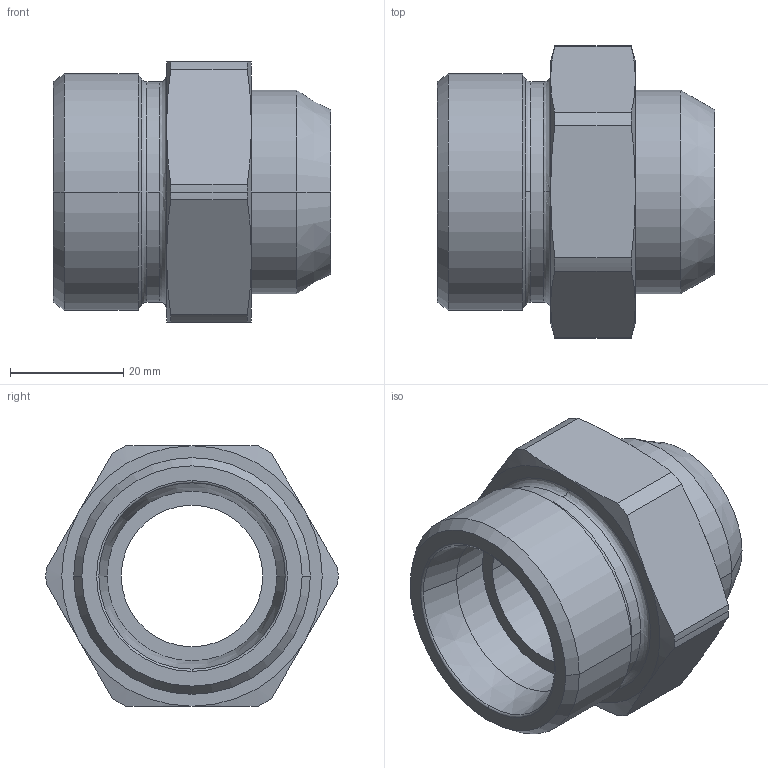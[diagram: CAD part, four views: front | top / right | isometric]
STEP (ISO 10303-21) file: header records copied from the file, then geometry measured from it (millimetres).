
FILE_DESCRIPTION((''),'2;1');
FILE_NAME('105522.stp','2007-10-31T14:02:13',(''),(''),'AutoCAD STEP 2000i','AutoCAD 2000i',', , ');
FILE_SCHEMA(('CONFIG_CONTROL_DESIGN'));
Length unit declared in the file: millimetre
Products named in the file (2): 105522.0; CHIAVE SMUSSATA#0
Assembly tree (1 placements, depth 2):
  105522.0
    CHIAVE SMUSSATA#0
Bounding box: 49 x 51.6 x 46 mm (x, y, z)
Volume: 39346.4 mm3; surface area: 12790.9 mm2
Topology: 1 solids, 1 shells, 57 faces, 136 edges, 84 vertices
Faces by surface type: cone 22, cylinder 18, plane 11, bspline 4, torus 2
Entity records: 1917 total; most frequent: CARTESIAN_POINT 503, DIRECTION 300, ORIENTED_EDGE 272, EDGE_CURVE 136, AXIS2_PLACEMENT_3D 133, VERTEX_POINT 84, CIRCLE 78, EDGE_LOOP 62
